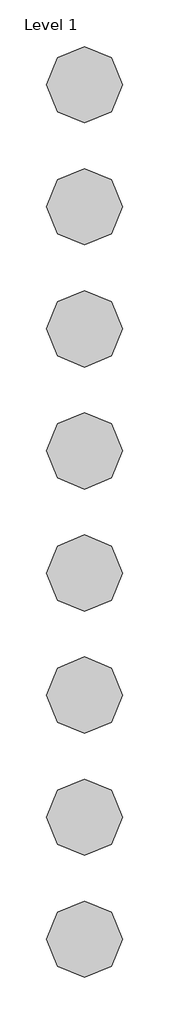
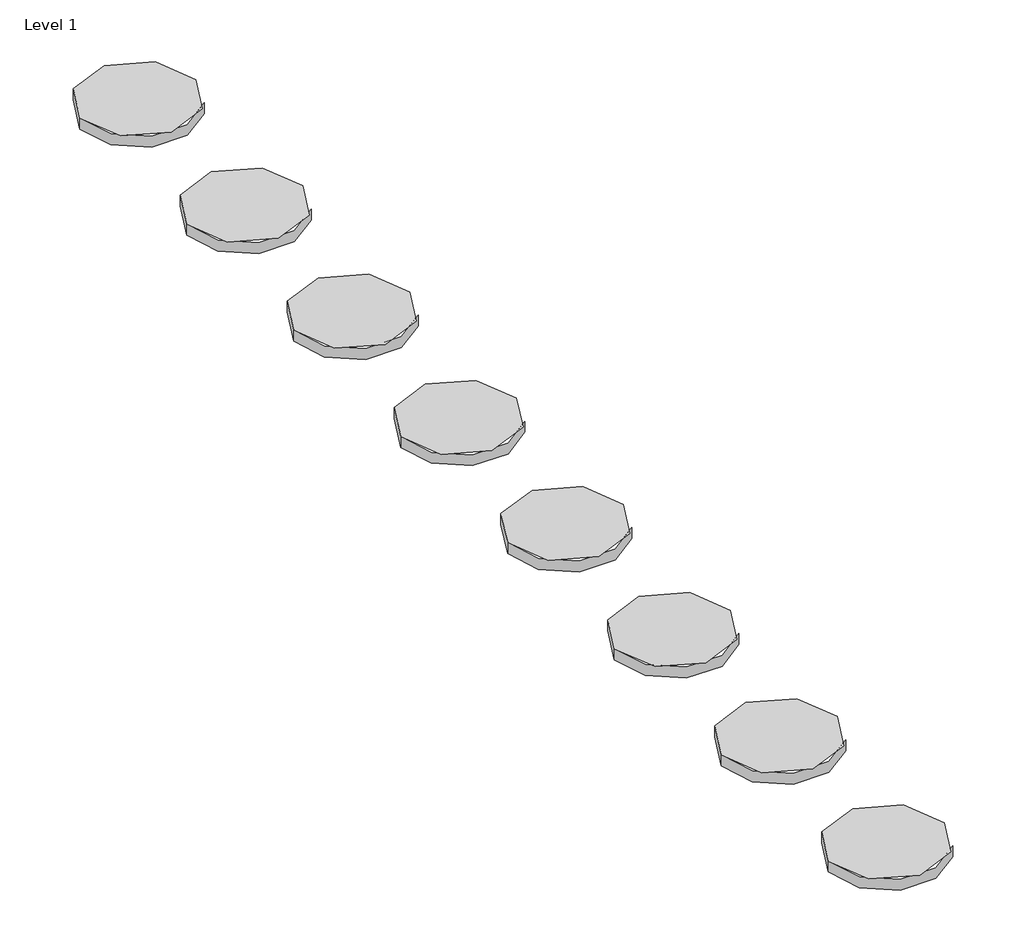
# One storey, incomplete: 8 proxies.
"""IFC4 building model written with IfcOpenShell, lengths in millimetres."""

import ifcopenshell
import ifcopenshell.guid

model = None  # the IFC model being written
_history = None  # IfcOwnerHistory: only IFC2X3 demands one
_inside = {}  # id of a spatial element -> (the spatial element, [elements in it])
_under = {}  # id of a project, library or spatial element -> (it, [spatial elements below it])
_declared = {}  # id of a project -> (the project, [libraries it declares])
_typed = {}  # id of a type object -> (the type object, [elements of that type])
_made_of = {}  # id of a material, layer set ... -> (it, [elements and type objects made of it])


def new_model(schema):
    """Start an empty IFC model of exactly this schema.

    Asked for "IFC4X3", IfcOpenShell would pick the latest addendum, in which some entities
    have other attributes; the version numbers below select the first issue.
    IFC2X3 requires an IfcOwnerHistory on every rooted entity: one is made here for all.
    """
    global model, _history
    if schema == "IFC4X3":
        model = ifcopenshell.file(schema_version=(4, 3, 0, 0))
    else:
        model = ifcopenshell.file(schema=schema)
    _inside.clear()
    _under.clear()
    _declared.clear()
    _typed.clear()
    _made_of.clear()
    _history = None
    if model.schema == "IFC2X3":
        org = make("IfcOrganization", Name="unknown")
        user = make(
            "IfcPersonAndOrganization",
            ThePerson=make("IfcPerson", FamilyName="unknown"),
            TheOrganization=org,
        )
        app = make(
            "IfcApplication",
            ApplicationDeveloper=org,
            Version="unknown",
            ApplicationFullName="unknown",
            ApplicationIdentifier="unknown",
        )
        _history = make(
            "IfcOwnerHistory",
            OwningUser=user,
            OwningApplication=app,
            ChangeAction="ADDED",
            CreationDate=0,
        )
    return model


def make(cls, **values):
    """One entity of the class cls with the attributes given. An attribute that is None is left unset."""
    return model.create_entity(
        cls, **{name: value for name, value in values.items() if value is not None}
    )


def rooted(cls, **values):
    """An entity with a GlobalId (a new one), such as an element, a storey or a relation."""
    return make(cls, GlobalId=ifcopenshell.guid.new(), OwnerHistory=_history, **values)


def si_unit(unit_type, name, prefix=None):
    """IfcSIUnit, for example si_unit("LENGTHUNIT", "METRE", prefix="MILLI")."""
    return make("IfcSIUnit", UnitType=unit_type, Prefix=prefix, Name=name)


def assignment(units):
    """IfcUnitAssignment: the units of a project."""
    return None if units is None else make("IfcUnitAssignment", Units=units)


def point(xyz):
    """IfcCartesianPoint."""
    return None if xyz is None else make("IfcCartesianPoint", Coordinates=xyz)


def direction(xyz):
    """IfcDirection."""
    return None if xyz is None else make("IfcDirection", DirectionRatios=xyz)


def frame(location, z_axis=None, x_axis=None):
    """IfcAxis2Placement3D, a coordinate frame: its origin and axes. An axis left out is left unset."""
    return make(
        "IfcAxis2Placement3D",
        Location=point(location),
        Axis=direction(z_axis),
        RefDirection=direction(x_axis),
    )


def frame_2d(location, x_axis=None):
    """IfcAxis2Placement2D, a coordinate frame in the plane: its origin and x axis."""
    return make(
        "IfcAxis2Placement2D", Location=point(location), RefDirection=direction(x_axis)
    )


def origin():
    """The frame at (0, 0, 0) with its axes left unset."""
    return frame((0.0, 0.0, 0.0))


def origin_with_axes():
    """The frame at (0, 0, 0) with the z axis (0, 0, 1) and the x axis (1, 0, 0) written out."""
    return frame((0.0, 0.0, 0.0), z_axis=(0.0, 0.0, 1.0), x_axis=(1.0, 0.0, 0.0))


def origin_2d():
    """The frame at (0, 0) in the plane with its x axis left unset."""
    return frame_2d((0.0, 0.0))


def place(relative_to, where):
    """IfcLocalPlacement: puts the frame where relative to a parent placement (None: the world)."""
    return make(
        "IfcLocalPlacement", PlacementRelTo=relative_to, RelativePlacement=where
    )


def context(
    kind, dimensions, precision=None, world=None, true_north=None, identifier=None
):
    """IfcGeometricRepresentationContext, for example the 3D "Model" context."""
    return make(
        "IfcGeometricRepresentationContext",
        ContextIdentifier=identifier,
        ContextType=kind,
        CoordinateSpaceDimension=dimensions,
        Precision=precision,
        WorldCoordinateSystem=world,
        TrueNorth=true_north,
    )


def project(units=None, contexts=None):
    """IfcProject with its units and contexts."""
    return rooted(
        "IfcProject",
        Name="project",
        RepresentationContexts=contexts,
        UnitsInContext=assignment(units),
    )


def spatial(cls, under=None, at=None, **own):
    """A site, building, storey or space (cls), placed at a placement, below another one or the project."""
    s = rooted(cls, ObjectPlacement=at, **own)
    if under is not None:
        _under.setdefault(under.id(), (under, []))[1].append(s)
    return s


def circle_curve(where, radius):
    """IfcCircle in the frame where."""
    return make("IfcCircle", Position=where, Radius=radius)


def trimmed(basis, trim1, trim2, sense, master):
    """IfcTrimmedCurve: the piece of a basis curve between two trims."""
    return make(
        "IfcTrimmedCurve",
        BasisCurve=basis,
        Trim1=trim1,
        Trim2=trim2,
        SenseAgreement=sense,
        MasterRepresentation=master,
    )


def segment(curve, same_sense, transition):
    """IfcCompositeCurveSegment."""
    return make(
        "IfcCompositeCurveSegment",
        Transition=transition,
        SameSense=same_sense,
        ParentCurve=curve,
    )


def composite_curve(segments, self_intersect=None):
    """IfcCompositeCurve: segments joined end to end."""
    return make("IfcCompositeCurve", Segments=segments, SelfIntersect=self_intersect)


def outline(outer, holes=None, kind="AREA"):
    """IfcArbitraryClosedProfileDef: a profile drawn as a closed curve; with holes, ...WithVoids."""
    if holes is None:
        return make("IfcArbitraryClosedProfileDef", ProfileType=kind, OuterCurve=outer)
    return make(
        "IfcArbitraryProfileDefWithVoids",
        ProfileType=kind,
        OuterCurve=outer,
        InnerCurves=holes,
    )


def extrude(swept, where, along, depth):
    """IfcExtrudedAreaSolid: the profile swept, set in the frame where, extruded along a direction by depth."""
    return make(
        "IfcExtrudedAreaSolid",
        SweptArea=swept,
        Position=where,
        ExtrudedDirection=direction(along),
        Depth=depth,
    )


def shape(context_of_items, identifier, shape_type, items):
    """IfcShapeRepresentation: the items that make up one representation, for example the "Body"."""
    return make(
        "IfcShapeRepresentation",
        ContextOfItems=context_of_items,
        RepresentationIdentifier=identifier,
        RepresentationType=shape_type,
        Items=items,
    )


def source(mapping_origin, context_of_items, identifier, shape_type, items):
    """IfcRepresentationMap: a shape defined once, which mapped items show again and again."""
    return make(
        "IfcRepresentationMap",
        MappingOrigin=mapping_origin,
        MappedRepresentation=shape(context_of_items, identifier, shape_type, items),
    )


def transform(
    local_origin,
    x_axis=None,
    y_axis=None,
    z_axis=None,
    scale=None,
    scale2=None,
    scale3=None,
    uniform=True,
):
    """IfcCartesianTransformationOperator3D, or its non-uniform kind. x_axis, y_axis, z_axis: its Axis1, 2, 3."""
    if uniform:
        return make(
            "IfcCartesianTransformationOperator3D",
            Axis1=direction(x_axis),
            Axis2=direction(y_axis),
            LocalOrigin=point(local_origin),
            Scale=scale,
            Axis3=direction(z_axis),
        )
    return make(
        "IfcCartesianTransformationOperator3DnonUniform",
        Axis1=direction(x_axis),
        Axis2=direction(y_axis),
        LocalOrigin=point(local_origin),
        Scale=scale,
        Axis3=direction(z_axis),
        Scale2=scale2,
        Scale3=scale3,
    )


def mapped(mapping_source, mapping_target):
    """IfcMappedItem: shows the shape of a source again, moved by a transform."""
    return make(
        "IfcMappedItem", MappingSource=mapping_source, MappingTarget=mapping_target
    )


def made_of(thing, what):
    """Note that an element or type object is made of a material, layer set ...; save() writes the relation."""
    if what is not None:
        _made_of.setdefault(what.id(), (what, []))[1].append(thing)
    return thing


def element(
    cls,
    number,
    at=None,
    inside=None,
    cuts=None,
    type_object=None,
    material=None,
    context=None,
    identifier="Body",
    shape_type=None,
    held_by="IfcProductDefinitionShape",
    body=None,
    shapes=None,
    **own,
):
    """One element of the class cls, such as IfcWall. Its Tag is "e" and its number.

    at: its placement. inside: the storey or other place that contains it. cuts: it is an
    opening in that element (IfcRelVoidsElement). A single representation is given by context,
    identifier, shape_type and body (its items); several are given by shapes. held_by: the class
    of the entity that holds the representations. save() writes the other relations.
    """
    e = rooted(cls, Tag="e%d" % number, ObjectPlacement=at, **own)
    if body is not None:
        shapes = [shape(context, identifier, shape_type, body)]
    if shapes is not None:
        e.Representation = make(held_by, Representations=shapes)
    if inside is not None:
        _inside.setdefault(inside.id(), (inside, []))[1].append(e)
    if cuts is not None:
        rooted(
            "IfcRelVoidsElement", RelatingBuildingElement=cuts, RelatedOpeningElement=e
        )
    if type_object is not None:
        _typed.setdefault(type_object.id(), (type_object, []))[1].append(e)
    return made_of(e, material)


def aggregate(whole, parts):
    """IfcRelAggregates: a whole, such as a stair, and the parts it consists of."""
    return rooted("IfcRelAggregates", RelatingObject=whole, RelatedObjects=parts)


def save(model, path):
    """Write the relations noted so far, then the file.

    IfcRelAggregates (storeys below a building ...), IfcRelContainedInSpatialStructure (elements
    in a storey), IfcRelDefinesByType, IfcRelAssociatesMaterial and IfcRelDeclares: one each for
    every whole, place, type object, material and project.
    """
    for whole, parts in _under.values():
        aggregate(whole, parts)
    for where, things in _inside.values():
        rooted(
            "IfcRelContainedInSpatialStructure",
            RelatedElements=things,
            RelatingStructure=where,
        )
    for kind, things in _typed.values():
        rooted("IfcRelDefinesByType", RelatedObjects=things, RelatingType=kind)
    for what, things in _made_of.values():
        rooted("IfcRelAssociatesMaterial", RelatedObjects=things, RelatingMaterial=what)
    for by, libraries in _declared.values():
        rooted("IfcRelDeclares", RelatingContext=by, RelatedDefinitions=libraries)
    model.write(path)


def materialmodel_materialmodel_ac00f72a(model_context):
    return source(origin(), model_context, "Body", "SweptSolid", [
        extrude(outline(composite_curve([segment(trimmed(circle_curve(origin_2d(), 100.0), [point((-100.0, 0.0))], [point((100.0, 0.0))], False, "CARTESIAN"), True, "CONTINUOUS"), segment(trimmed(circle_curve(origin_2d(), 100.0), [point((100.0, 0.0))], [point((-100.0, 0.0))], False, "CARTESIAN"), True, "CONTINUOUS")], self_intersect=False)), origin_with_axes(), (0.0, 0.0, 1.0), 20.0),
    ])


model = new_model("IFC4")

# Units and contexts
model_context = context("Model", 3, world=origin())
ifc_project = project(units=[si_unit("LENGTHUNIT", "METRE", prefix="MILLI")], contexts=[model_context])

# Site, building, storey
site = spatial("IfcSite", under=ifc_project)
building = spatial("IfcBuilding", under=site)
storey = spatial("IfcBuildingStorey", under=building, Name="Level 1", Elevation=0.0)

# Proxies
placement = place(None, origin())
materialmodel_materialmodel_shape = materialmodel_materialmodel_ac00f72a(model_context)
element("IfcBuildingElementProxy", 1, Name="MaterialModel : MaterialModel", ObjectType="MaterialModel : MaterialModel", at=placement, inside=storey, context=model_context, shape_type="MappedRepresentation", body=[
    mapped(materialmodel_materialmodel_shape, transform((-10325.5786717, 6175.5592493, 0.0), x_axis=(1.0, 0.0, 0.0), y_axis=(0.0, 1.0, 0.0), z_axis=(0.0, 0.0, 1.0))),
])
element("IfcBuildingElementProxy", 2, Name="MaterialModel : MaterialModel", ObjectType="MaterialModel : MaterialModel", at=placement, inside=storey, context=model_context, shape_type="MappedRepresentation", body=[
    mapped(materialmodel_materialmodel_shape, transform((-10325.5786717, 5855.5592493, 0.0), x_axis=(1.0, 0.0, 0.0), y_axis=(0.0, 1.0, 0.0), z_axis=(0.0, 0.0, 1.0))),
])
element("IfcBuildingElementProxy", 3, Name="MaterialModel : MaterialModel", ObjectType="MaterialModel : MaterialModel", at=placement, inside=storey, context=model_context, shape_type="MappedRepresentation", body=[
    mapped(materialmodel_materialmodel_shape, transform((-10325.5786717, 5535.5592493, 0.0), x_axis=(1.0, 0.0, 0.0), y_axis=(0.0, 1.0, 0.0), z_axis=(0.0, 0.0, 1.0))),
])
element("IfcBuildingElementProxy", 4, Name="MaterialModel : MaterialModel", ObjectType="MaterialModel : MaterialModel", at=placement, inside=storey, context=model_context, shape_type="MappedRepresentation", body=[
    mapped(materialmodel_materialmodel_shape, transform((-10325.5786717, 5215.5592493, 0.0), x_axis=(1.0, 0.0, 0.0), y_axis=(0.0, 1.0, 0.0), z_axis=(0.0, 0.0, 1.0))),
])
element("IfcBuildingElementProxy", 5, Name="MaterialModel : MaterialModel", ObjectType="MaterialModel : MaterialModel", at=placement, inside=storey, context=model_context, shape_type="MappedRepresentation", body=[
    mapped(materialmodel_materialmodel_shape, transform((-10325.5786717, 4895.5592493, 0.0), x_axis=(1.0, 0.0, 0.0), y_axis=(0.0, 1.0, 0.0), z_axis=(0.0, 0.0, 1.0))),
])
element("IfcBuildingElementProxy", 6, Name="MaterialModel : MaterialModel", ObjectType="MaterialModel : MaterialModel", at=placement, inside=storey, context=model_context, shape_type="MappedRepresentation", body=[
    mapped(materialmodel_materialmodel_shape, transform((-10325.5786717, 4575.5592493, 0.0), x_axis=(1.0, 0.0, 0.0), y_axis=(0.0, 1.0, 0.0), z_axis=(0.0, 0.0, 1.0))),
])
element("IfcBuildingElementProxy", 7, Name="MaterialModel : MaterialModel", ObjectType="MaterialModel : MaterialModel", at=placement, inside=storey, context=model_context, shape_type="MappedRepresentation", body=[
    mapped(materialmodel_materialmodel_shape, transform((-10325.5786717, 4255.5592493, 0.0), x_axis=(1.0, 0.0, 0.0), y_axis=(0.0, 1.0, 0.0), z_axis=(0.0, 0.0, 1.0))),
])
element("IfcBuildingElementProxy", 8, Name="MaterialModel : MaterialModel", ObjectType="MaterialModel : MaterialModel", at=placement, inside=storey, context=model_context, shape_type="MappedRepresentation", body=[
    mapped(materialmodel_materialmodel_shape, transform((-10325.5786717, 3935.5592493, 0.0), x_axis=(1.0, 0.0, 0.0), y_axis=(0.0, 1.0, 0.0), z_axis=(0.0, 0.0, 1.0))),
])

save(model, "model.ifc")
